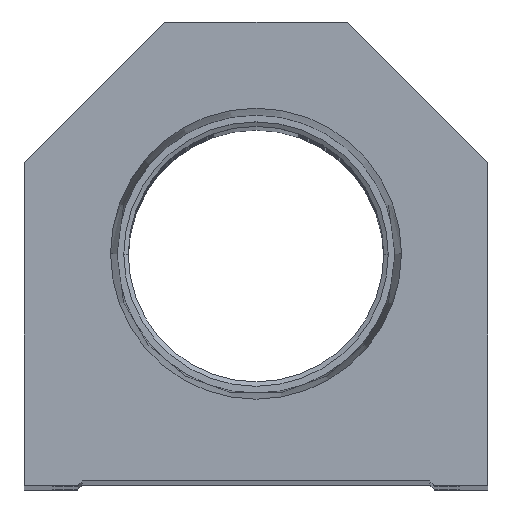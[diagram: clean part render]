
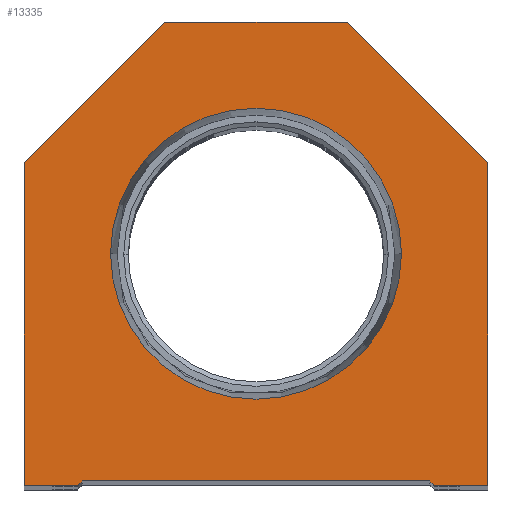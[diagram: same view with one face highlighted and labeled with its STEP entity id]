
A CAD part, top view. The second image highlights one B-rep face of the part: STEP entity #13335.
In plain terms, the highlighted planar face has unit normal (0, 0, 1).
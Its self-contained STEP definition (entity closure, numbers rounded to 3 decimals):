
#75 = CARTESIAN_POINT ( 'NONE',  ( 25.4, 35.4, 0. ) ) ;
#637 = ORIENTED_EDGE ( 'NONE', *, *, #19598, .F. ) ;
#951 = DIRECTION ( 'NONE',  ( 0., -1., 0. ) ) ;
#1245 = CARTESIAN_POINT ( 'NONE',  ( 25.4, 35.4, 0. ) ) ;
#1344 = VECTOR ( 'NONE', #2525, 1000. ) ;
#1505 = CARTESIAN_POINT ( 'NONE',  ( 19.05, 0., 0. ) ) ;
#2055 = EDGE_CURVE ( 'NONE', #8633, #20121, #5240, .T. ) ;
#2158 = CARTESIAN_POINT ( 'NONE',  ( 0., 25.4, 0. ) ) ;
#2349 = ORIENTED_EDGE ( 'NONE', *, *, #16971, .T. ) ;
#2383 = CARTESIAN_POINT ( 'NONE',  ( -25.4, 0., 0. ) ) ;
#2472 = ORIENTED_EDGE ( 'NONE', *, *, #4966, .T. ) ;
#2525 = DIRECTION ( 'NONE',  ( 0., 1., 0. ) ) ;
#2558 = VECTOR ( 'NONE', #12842, 1000. ) ;
#2579 = PLANE ( 'NONE',  #15340 ) ;
#3888 = EDGE_CURVE ( 'NONE', #19719, #8186, #4431, .T. ) ;
#4180 = CARTESIAN_POINT ( 'NONE',  ( 0., 0., 0. ) ) ;
#4242 = VERTEX_POINT ( 'NONE', #2383 ) ;
#4431 = LINE ( 'NONE', #75, #2558 ) ;
#4667 = ORIENTED_EDGE ( 'NONE', *, *, #19463, .T. ) ;
#4935 = ORIENTED_EDGE ( 'NONE', *, *, #2055, .F. ) ;
#4966 = EDGE_CURVE ( 'NONE', #6914, #7787, #15243, .T. ) ;
#5240 = CIRCLE ( 'NONE', #17087, 15.947 ) ;
#5469 = CARTESIAN_POINT ( 'NONE',  ( -19.05, 0., 0. ) ) ;
#5524 = EDGE_CURVE ( 'NONE', #12399, #10713, #13315, .T. ) ;
#5680 = DIRECTION ( 'NONE',  ( 1., 0., 0. ) ) ;
#5898 = CARTESIAN_POINT ( 'NONE',  ( 10., 50.8, 0. ) ) ;
#5994 = VECTOR ( 'NONE', #8991, 1000. ) ;
#6510 = EDGE_LOOP ( 'NONE', ( #637, #4935 ) ) ;
#6721 = VERTEX_POINT ( 'NONE', #17322 ) ;
#6737 = DIRECTION ( 'NONE',  ( 0., 0., 1. ) ) ;
#6758 = CARTESIAN_POINT ( 'NONE',  ( -25.4, 35.4, 0. ) ) ;
#6773 = CARTESIAN_POINT ( 'NONE',  ( -19.55, 0., 0. ) ) ;
#6780 = VECTOR ( 'NONE', #951, 1000. ) ;
#6828 = ORIENTED_EDGE ( 'NONE', *, *, #18830, .T. ) ;
#6914 = VERTEX_POINT ( 'NONE', #16046 ) ;
#7055 = DIRECTION ( 'NONE',  ( 1., 0., 0. ) ) ;
#7064 = LINE ( 'NONE', #5469, #10649 ) ;
#7155 = ORIENTED_EDGE ( 'NONE', *, *, #7559, .T. ) ;
#7199 = CARTESIAN_POINT ( 'NONE',  ( 9.775, 9.775, 0. ) ) ;
#7229 = CARTESIAN_POINT ( 'NONE',  ( -25.4, 0., 0. ) ) ;
#7405 = VERTEX_POINT ( 'NONE', #16654 ) ;
#7559 = EDGE_CURVE ( 'NONE', #13248, #19719, #10604, .T. ) ;
#7787 = VERTEX_POINT ( 'NONE', #7791 ) ;
#7791 = CARTESIAN_POINT ( 'NONE',  ( 19.55, 0., 0. ) ) ;
#8186 = VERTEX_POINT ( 'NONE', #11846 ) ;
#8444 = DIRECTION ( 'NONE',  ( -0.707, -0.707, 0. ) ) ;
#8501 = VECTOR ( 'NONE', #14360, 1000. ) ;
#8633 = VERTEX_POINT ( 'NONE', #10073 ) ;
#8863 = CARTESIAN_POINT ( 'NONE',  ( -9.775, 9.775, 0. ) ) ;
#8991 = DIRECTION ( 'NONE',  ( 0.707, -0.707, 0. ) ) ;
#9090 = EDGE_CURVE ( 'NONE', #10713, #6914, #14607, .T. ) ;
#9107 = ORIENTED_EDGE ( 'NONE', *, *, #13237, .T. ) ;
#9128 = VECTOR ( 'NONE', #7055, 1000. ) ;
#9152 = CARTESIAN_POINT ( 'NONE',  ( 15.947, 25.4, 0. ) ) ;
#9276 = DIRECTION ( 'NONE',  ( 1., 0., 0. ) ) ;
#9853 = AXIS2_PLACEMENT_3D ( 'NONE', #11262, #19187, #19825 ) ;
#10073 = CARTESIAN_POINT ( 'NONE',  ( -15.947, 25.4, 0. ) ) ;
#10445 = DIRECTION ( 'NONE',  ( 0.707, 0.707, 0. ) ) ;
#10604 = LINE ( 'NONE', #17068, #1344 ) ;
#10649 = VECTOR ( 'NONE', #5680, 1000. ) ;
#10707 = LINE ( 'NONE', #7229, #6780 ) ;
#10713 = VERTEX_POINT ( 'NONE', #18946 ) ;
#10760 = FACE_OUTER_BOUND ( 'NONE', #13716, .T. ) ;
#11262 = CARTESIAN_POINT ( 'NONE',  ( 0., 25.4, 0. ) ) ;
#11339 = VECTOR ( 'NONE', #15328, 1000. ) ;
#11620 = DIRECTION ( 'NONE',  ( 1., 0., 0. ) ) ;
#11846 = CARTESIAN_POINT ( 'NONE',  ( 10., 50.8, 0. ) ) ;
#11991 = VECTOR ( 'NONE', #10445, 1000. ) ;
#12399 = VERTEX_POINT ( 'NONE', #6773 ) ;
#12842 = DIRECTION ( 'NONE',  ( -0.707, 0.707, 0. ) ) ;
#13237 = EDGE_CURVE ( 'NONE', #7405, #6721, #16502, .T. ) ;
#13248 = VERTEX_POINT ( 'NONE', #13332 ) ;
#13315 = LINE ( 'NONE', #8863, #11991 ) ;
#13332 = CARTESIAN_POINT ( 'NONE',  ( 25.4, 0., 0. ) ) ;
#13335 = ADVANCED_FACE ( 'NONE', ( #17433, #10760 ), #2579, .T. ) ;
#13513 = ORIENTED_EDGE ( 'NONE', *, *, #3888, .T. ) ;
#13716 = EDGE_LOOP ( 'NONE', ( #16647, #19942, #17330, #2472, #4667, #7155, #13513, #2349, #9107, #6828 ) ) ;
#14360 = DIRECTION ( 'NONE',  ( 1., 0., 0. ) ) ;
#14607 = LINE ( 'NONE', #15201, #9128 ) ;
#14950 = EDGE_CURVE ( 'NONE', #4242, #12399, #7064, .T. ) ;
#15201 = CARTESIAN_POINT ( 'NONE',  ( -19.05, 0.5, 0. ) ) ;
#15243 = LINE ( 'NONE', #7199, #5994 ) ;
#15328 = DIRECTION ( 'NONE',  ( -1., 0., 0. ) ) ;
#15340 = AXIS2_PLACEMENT_3D ( 'NONE', #4180, #19015, #9276 ) ;
#16042 = LINE ( 'NONE', #1505, #8501 ) ;
#16046 = CARTESIAN_POINT ( 'NONE',  ( 19.05, 0.5, 0. ) ) ;
#16502 = LINE ( 'NONE', #6758, #20735 ) ;
#16647 = ORIENTED_EDGE ( 'NONE', *, *, #14950, .T. ) ;
#16654 = CARTESIAN_POINT ( 'NONE',  ( -10., 50.8, 0. ) ) ;
#16971 = EDGE_CURVE ( 'NONE', #8186, #7405, #17316, .T. ) ;
#17068 = CARTESIAN_POINT ( 'NONE',  ( 25.4, 0., 0. ) ) ;
#17087 = AXIS2_PLACEMENT_3D ( 'NONE', #2158, #6737, #11620 ) ;
#17316 = LINE ( 'NONE', #5898, #11339 ) ;
#17322 = CARTESIAN_POINT ( 'NONE',  ( -25.4, 35.4, 0. ) ) ;
#17330 = ORIENTED_EDGE ( 'NONE', *, *, #9090, .T. ) ;
#17433 = FACE_BOUND ( 'NONE', #6510, .T. ) ;
#18830 = EDGE_CURVE ( 'NONE', #6721, #4242, #10707, .T. ) ;
#18946 = CARTESIAN_POINT ( 'NONE',  ( -19.05, 0.5, 0. ) ) ;
#18987 = CIRCLE ( 'NONE', #9853, 15.947 ) ;
#19015 = DIRECTION ( 'NONE',  ( 0., 0., 1. ) ) ;
#19187 = DIRECTION ( 'NONE',  ( 0., 0., 1. ) ) ;
#19463 = EDGE_CURVE ( 'NONE', #7787, #13248, #16042, .T. ) ;
#19598 = EDGE_CURVE ( 'NONE', #20121, #8633, #18987, .T. ) ;
#19719 = VERTEX_POINT ( 'NONE', #1245 ) ;
#19825 = DIRECTION ( 'NONE',  ( 1., 0., 0. ) ) ;
#19942 = ORIENTED_EDGE ( 'NONE', *, *, #5524, .T. ) ;
#20121 = VERTEX_POINT ( 'NONE', #9152 ) ;
#20735 = VECTOR ( 'NONE', #8444, 1000. ) ;
